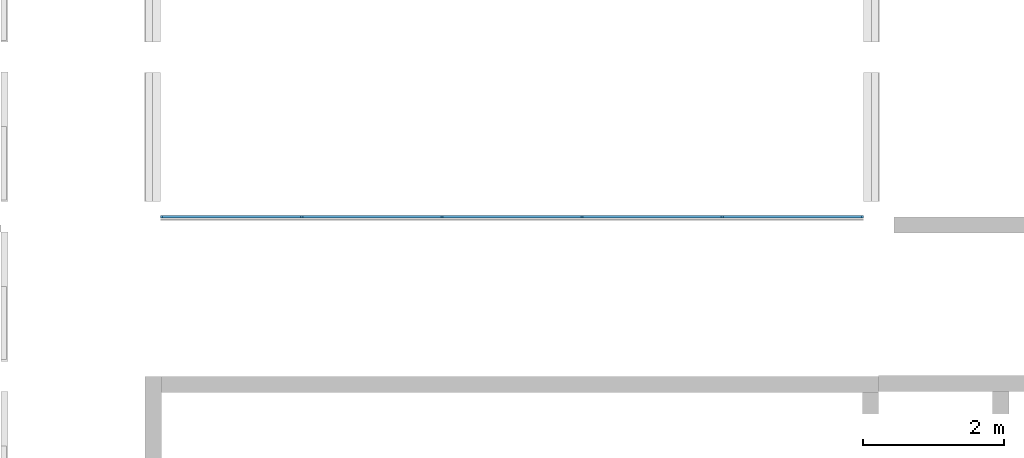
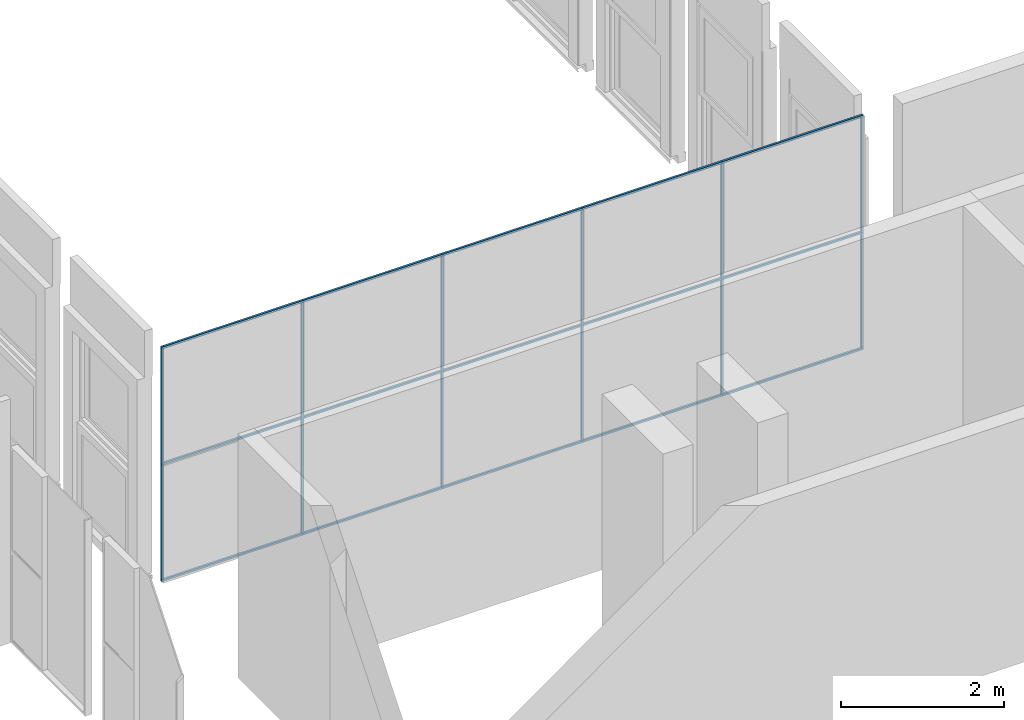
# One storey, part 1 of 16: 27 members, 1 element without a shape of its own.
"""IFC2X3 building model written with IfcOpenShell, lengths in millimetres."""

from ifc_helpers import new_model, entity, si_unit, converted_unit, derived_unit, direction, frame, origin, origin_2d_with_axis, place, context, subcontext, project, spatial, rectangle, extrude, source, transform, mapped, material, type_object, type_shapes, element, aggregate, save


model = new_model("IFC2X3")

# Units and contexts
model_context = context("Model", 3, precision=0.01, world=origin(), true_north=direction((6.12303176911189e-17, 1.0)))
body_context = subcontext(model_context, "Body", "Model", "MODEL_VIEW")
ifc_project = project(units=[si_unit("LENGTHUNIT", "METRE", prefix="MILLI"), si_unit("AREAUNIT", "SQUARE_METRE"), si_unit("VOLUMEUNIT", "CUBIC_METRE"), converted_unit("PLANEANGLEUNIT", "DEGREE", entity("IfcRatioMeasure", 0.0174532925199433), si_unit("PLANEANGLEUNIT", "RADIAN"), dimensions=[0, 0, 0, 0, 0, 0, 0]), si_unit("MASSUNIT", "GRAM", prefix="KILO"), derived_unit("MASSDENSITYUNIT", [(si_unit("MASSUNIT", "GRAM", prefix="KILO"), 1), (si_unit("LENGTHUNIT", "METRE"), -3)]), derived_unit("MOMENTOFINERTIAUNIT", [(si_unit("LENGTHUNIT", "METRE"), 4)]), si_unit("TIMEUNIT", "SECOND"), si_unit("FREQUENCYUNIT", "HERTZ"), si_unit("THERMODYNAMICTEMPERATUREUNIT", "DEGREE_CELSIUS"), derived_unit("THERMALTRANSMITTANCEUNIT", [(si_unit("MASSUNIT", "GRAM", prefix="KILO"), 1), (si_unit("THERMODYNAMICTEMPERATUREUNIT", "KELVIN"), -1), (si_unit("TIMEUNIT", "SECOND"), -3)]), derived_unit("VOLUMETRICFLOWRATEUNIT", [(si_unit("LENGTHUNIT", "METRE"), 3), (si_unit("TIMEUNIT", "SECOND"), -1)]), si_unit("ELECTRICCURRENTUNIT", "AMPERE"), si_unit("ELECTRICVOLTAGEUNIT", "VOLT"), si_unit("POWERUNIT", "WATT"), si_unit("FORCEUNIT", "NEWTON", prefix="KILO"), si_unit("ILLUMINANCEUNIT", "LUX"), si_unit("LUMINOUSFLUXUNIT", "LUMEN"), si_unit("LUMINOUSINTENSITYUNIT", "CANDELA"), derived_unit("USERDEFINED", [(si_unit("MASSUNIT", "GRAM", prefix="KILO"), -1), (si_unit("LENGTHUNIT", "METRE"), -2), (si_unit("TIMEUNIT", "SECOND"), 3), (si_unit("LUMINOUSFLUXUNIT", "LUMEN"), 1)]), derived_unit("LINEARVELOCITYUNIT", [(si_unit("LENGTHUNIT", "METRE"), 1), (si_unit("TIMEUNIT", "SECOND"), -1)]), si_unit("PRESSUREUNIT", "PASCAL"), derived_unit("USERDEFINED", [(si_unit("LENGTHUNIT", "METRE"), -2), (si_unit("MASSUNIT", "GRAM", prefix="KILO"), 1), (si_unit("TIMEUNIT", "SECOND"), -2)]), derived_unit("LINEARFORCEUNIT", [(si_unit("MASSUNIT", "GRAM", prefix="KILO"), 1), (si_unit("LENGTHUNIT", "METRE"), 1), (si_unit("TIMEUNIT", "SECOND"), -2), (si_unit("LENGTHUNIT", "METRE"), -1)]), derived_unit("PLANARFORCEUNIT", [(si_unit("MASSUNIT", "GRAM", prefix="KILO"), 1), (si_unit("LENGTHUNIT", "METRE"), 1), (si_unit("TIMEUNIT", "SECOND"), -2), (si_unit("LENGTHUNIT", "METRE"), -2)])], contexts=[model_context])

# Site, building, storey
site_placement = place(None, frame((10627.5135316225, 21939.0796949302, 0.0)))
site = spatial("IfcSite", under=ifc_project, at=site_placement, Name="Default", CompositionType="ELEMENT")
building_placement = place(site_placement, origin())
building = spatial("IfcBuilding", under=site, at=building_placement, CompositionType="ELEMENT")
storey_placement = place(building_placement, frame((0.0, 0.0, 3660.0)))
storey = spatial("IfcBuildingStorey", under=building, at=storey_placement, Name="R+1", CompositionType="ELEMENT", Elevation=3660.0)

# Curtain wall, members
curtain_wall_type = type_object("IfcCurtainWallType", Name="Curtain Wall:Curtain_Wall-Exterior_Glazing", PredefinedType="NOTDEFINED")
curtain_wall_placement = place(storey_placement, frame((0.0, 0.0, -3660.0)))
curtain_wall = element("IfcCurtainWall", 1, at=curtain_wall_placement, inside=storey, type_object=curtain_wall_type, Name="Curtain Wall:Curtain_Wall-Exterior_Glazing", ObjectType="Curtain Wall:Curtain_Wall-Exterior_Glazing")
ifc_material = material(Name="Aluminium")
member_type_1 = type_object("IfcMemberType", Name="Rectangular Mullion:30mm_Square", PredefinedType="MULLION", material=ifc_material)
shared_shape_1 = source(origin(), body_context, "Body", "SweptSolid", [
    extrude(rectangle(XDim=30.0, YDim=30.0, at=origin_2d_with_axis()), frame((-15.0, 0.0, -1999.0), z_axis=(0.0, 0.0, 1.0), x_axis=(0.0, -1.0, 0.0)), (0.0, 0.0, 1.0), 1999.00000018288),
])
type_shapes(member_type_1, [shared_shape_1])
member_1_placement = place(storey_placement, frame((1797.4864683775, -15159.0796949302, 3520.0), z_axis=(-1.0, 0.0, 0.0), x_axis=(0.0, 0.0, 1.0)))
member_1 = element("IfcMember", 2, at=member_1_placement, type_object=member_type_1, material=ifc_material, Name="Rectangular Mullion:30mm_Square", ObjectType="Rectangular Mullion:30mm_Square", context=body_context, shape_type="MappedRepresentation", body=[
    mapped(shared_shape_1, transform((0.0, 0.0, 0.0), scale=1.0)),
])
member_type_2 = type_object("IfcMemberType", Name="Rectangular Mullion:30mm_Square", PredefinedType="MULLION", material=ifc_material)
shared_shape_2 = source(origin(), body_context, "Body", "SweptSolid", [
    extrude(rectangle(XDim=30.0, YDim=30.0, at=origin_2d_with_axis()), frame((-15.0, 0.0, -1999.0), z_axis=(0.0, 0.0, 1.0), x_axis=(0.0, -1.0, 0.0)), (0.0, 0.0, 1.0), 1999.00000018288),
])
type_shapes(member_type_2, [shared_shape_2])
member_2_placement = place(storey_placement, frame((9748.48646819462, -15159.0796949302, 3520.0), z_axis=(-1.0, 0.0, 0.0), x_axis=(0.0, 0.0, 1.0)))
member_2 = element("IfcMember", 3, at=member_2_placement, type_object=member_type_2, material=ifc_material, Name="Rectangular Mullion:30mm_Square", ObjectType="Rectangular Mullion:30mm_Square", context=body_context, shape_type="MappedRepresentation", body=[
    mapped(shared_shape_2, transform((0.0, 0.0, 0.0), scale=1.0)),
])
member_type_3 = type_object("IfcMemberType", Name="Rectangular Mullion:30mm_Square", PredefinedType="MULLION", material=ifc_material)
shared_shape_3 = source(origin(), body_context, "Body", "SweptSolid", [
    extrude(rectangle(XDim=30.0, YDim=30.0, at=origin_2d_with_axis()), frame((-15.0, 0.0, -1984.0), z_axis=(0.0, 0.0, 1.0), x_axis=(0.0, -1.0, 0.0)), (0.0, 0.0, 1.0), 1983.99999987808),
])
type_shapes(member_type_3, [shared_shape_3])
member_3_placement = place(storey_placement, frame((7764.48646831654, -15159.0796949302, 3520.0), z_axis=(-1.0, 0.0, 0.0), x_axis=(0.0, 0.0, 1.0)))
member_3 = element("IfcMember", 4, at=member_3_placement, type_object=member_type_3, material=ifc_material, Name="Rectangular Mullion:30mm_Square", ObjectType="Rectangular Mullion:30mm_Square", context=body_context, shape_type="MappedRepresentation", body=[
    mapped(shared_shape_3, transform((0.0, 0.0, 0.0), scale=1.0)),
])
member_4_placement = place(storey_placement, frame((5780.48646843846, -15159.0796949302, 3520.0), z_axis=(-1.0, 0.0, 0.0), x_axis=(0.0, 0.0, 1.0)))
member_4 = element("IfcMember", 5, at=member_4_placement, type_object=member_type_3, material=ifc_material, Name="Rectangular Mullion:30mm_Square", ObjectType="Rectangular Mullion:30mm_Square", context=body_context, shape_type="MappedRepresentation", body=[
    mapped(shared_shape_3, transform((0.0, 0.0, 0.0), scale=1.0)),
])
member_5_placement = place(storey_placement, frame((3796.48646856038, -15159.0796949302, 3520.0), z_axis=(-1.0, 0.0, 0.0), x_axis=(0.0, 0.0, 1.0)))
member_5 = element("IfcMember", 6, at=member_5_placement, type_object=member_type_3, material=ifc_material, Name="Rectangular Mullion:30mm_Square", ObjectType="Rectangular Mullion:30mm_Square", context=body_context, shape_type="MappedRepresentation", body=[
    mapped(shared_shape_3, transform((0.0, 0.0, 0.0), scale=1.0)),
])
member_type_4 = type_object("IfcMemberType", Name="Rectangular Mullion:30mm_Square", PredefinedType="MULLION", material=ifc_material)
shared_shape_4 = source(origin(), body_context, "Body", "SweptSolid", [
    extrude(rectangle(XDim=30.0, YDim=30.0, at=origin_2d_with_axis()), frame((-15.0, 0.0, -1999.0), z_axis=(0.0, 0.0, 1.0), x_axis=(0.0, -1.0, 0.0)), (0.0, 0.0, 1.0), 1999.00000018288),
])
type_shapes(member_type_4, [shared_shape_4])
member_6_placement = place(storey_placement, frame((11747.4864683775, -15159.0796949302, 0.0), z_axis=(1.0, 0.0, 0.0), x_axis=(0.0, 0.0, -1.0)))
member_6 = element("IfcMember", 7, at=member_6_placement, type_object=member_type_4, material=ifc_material, Name="Rectangular Mullion:30mm_Square", ObjectType="Rectangular Mullion:30mm_Square", context=body_context, shape_type="MappedRepresentation", body=[
    mapped(shared_shape_4, transform((0.0, 0.0, 0.0), scale=1.0)),
])
member_type_5 = type_object("IfcMemberType", Name="Rectangular Mullion:30mm_Square", PredefinedType="MULLION", material=ifc_material)
shared_shape_5 = source(origin(), body_context, "Body", "SweptSolid", [
    extrude(rectangle(XDim=30.0, YDim=30.0, at=origin_2d_with_axis()), frame((-15.0, 0.0, -1984.0), z_axis=(0.0, 0.0, 1.0), x_axis=(0.0, -1.0, 0.0)), (0.0, 0.0, 1.0), 1983.99999987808),
])
type_shapes(member_type_5, [shared_shape_5])
member_7_placement = place(storey_placement, frame((9748.48646819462, -15159.0796949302, 0.0), z_axis=(1.0, 0.0, 0.0), x_axis=(0.0, 0.0, -1.0)))
member_7 = element("IfcMember", 8, at=member_7_placement, type_object=member_type_5, material=ifc_material, Name="Rectangular Mullion:30mm_Square", ObjectType="Rectangular Mullion:30mm_Square", context=body_context, shape_type="MappedRepresentation", body=[
    mapped(shared_shape_5, transform((0.0, 0.0, 0.0), scale=1.0)),
])
member_8_placement = place(storey_placement, frame((7764.48646831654, -15159.0796949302, 0.0), z_axis=(1.0, 0.0, 0.0), x_axis=(0.0, 0.0, -1.0)))
member_8 = element("IfcMember", 9, at=member_8_placement, type_object=member_type_5, material=ifc_material, Name="Rectangular Mullion:30mm_Square", ObjectType="Rectangular Mullion:30mm_Square", context=body_context, shape_type="MappedRepresentation", body=[
    mapped(shared_shape_5, transform((0.0, 0.0, 0.0), scale=1.0)),
])
member_9_placement = place(storey_placement, frame((5780.48646843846, -15159.0796949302, 0.0), z_axis=(1.0, 0.0, 0.0), x_axis=(0.0, 0.0, -1.0)))
member_9 = element("IfcMember", 10, at=member_9_placement, type_object=member_type_5, material=ifc_material, Name="Rectangular Mullion:30mm_Square", ObjectType="Rectangular Mullion:30mm_Square", context=body_context, shape_type="MappedRepresentation", body=[
    mapped(shared_shape_5, transform((0.0, 0.0, 0.0), scale=1.0)),
])
member_type_6 = type_object("IfcMemberType", Name="Rectangular Mullion:30mm_Square", PredefinedType="MULLION", material=ifc_material)
shared_shape_6 = source(origin(), body_context, "Body", "SweptSolid", [
    extrude(rectangle(XDim=30.0, YDim=30.0, at=origin_2d_with_axis()), frame((-15.0, 0.0, -1999.0), z_axis=(0.0, 0.0, 1.0), x_axis=(0.0, -1.0, 0.0)), (0.0, 0.0, 1.0), 1999.00000018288),
])
type_shapes(member_type_6, [shared_shape_6])
member_10_placement = place(storey_placement, frame((3796.48646856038, -15159.0796949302, 0.0), z_axis=(1.0, 0.0, 0.0), x_axis=(0.0, 0.0, -1.0)))
member_10 = element("IfcMember", 11, at=member_10_placement, type_object=member_type_6, material=ifc_material, Name="Rectangular Mullion:30mm_Square", ObjectType="Rectangular Mullion:30mm_Square", context=body_context, shape_type="MappedRepresentation", body=[
    mapped(shared_shape_6, transform((0.0, 0.0, 0.0), scale=1.0)),
])
member_type_7 = type_object("IfcMemberType", Name="Rectangular Mullion:30mm_Square", PredefinedType="MULLION", material=ifc_material)
shared_shape_7 = source(origin(), body_context, "Body", "SweptSolid", [
    extrude(rectangle(XDim=30.0, YDim=30.0, at=origin_2d_with_axis()), frame((0.0, 0.0, -1954.0), z_axis=(0.0, 0.0, 1.0), x_axis=(0.0, -1.0, 0.0)), (0.0, 0.0, 1.0), 1954.00000018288),
])
type_shapes(member_type_7, [shared_shape_7])
member_11_placement = place(storey_placement, frame((9763.48646819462, -15159.0796949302, 1760.0), z_axis=(-1.0, 0.0, 0.0), x_axis=(0.0, 0.0, 1.0)))
member_11 = element("IfcMember", 12, at=member_11_placement, type_object=member_type_7, material=ifc_material, Name="Rectangular Mullion:30mm_Square", ObjectType="Rectangular Mullion:30mm_Square", context=body_context, shape_type="MappedRepresentation", body=[
    mapped(shared_shape_7, transform((0.0, 0.0, 0.0), scale=1.0)),
])
member_12_placement = place(storey_placement, frame((7779.48646831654, -15159.0796949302, 1760.0), z_axis=(-1.0, 0.0, 0.0), x_axis=(0.0, 0.0, 1.0)))
member_12 = element("IfcMember", 13, at=member_12_placement, type_object=member_type_7, material=ifc_material, Name="Rectangular Mullion:30mm_Square", ObjectType="Rectangular Mullion:30mm_Square", context=body_context, shape_type="MappedRepresentation", body=[
    mapped(shared_shape_7, transform((0.0, 0.0, 0.0), scale=1.0)),
])
member_13_placement = place(storey_placement, frame((5795.48646843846, -15159.0796949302, 1760.0), z_axis=(-1.0, 0.0, 0.0), x_axis=(0.0, 0.0, 1.0)))
member_13 = element("IfcMember", 14, at=member_13_placement, type_object=member_type_7, material=ifc_material, Name="Rectangular Mullion:30mm_Square", ObjectType="Rectangular Mullion:30mm_Square", context=body_context, shape_type="MappedRepresentation", body=[
    mapped(shared_shape_7, transform((0.0, 0.0, 0.0), scale=1.0)),
])
member_14_placement = place(storey_placement, frame((3811.48646856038, -15159.0796949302, 1760.0), z_axis=(-1.0, 0.0, 0.0), x_axis=(0.0, 0.0, 1.0)))
member_14 = element("IfcMember", 15, at=member_14_placement, type_object=member_type_7, material=ifc_material, Name="Rectangular Mullion:30mm_Square", ObjectType="Rectangular Mullion:30mm_Square", context=body_context, shape_type="MappedRepresentation", body=[
    mapped(shared_shape_7, transform((0.0, 0.0, 0.0), scale=1.0)),
])
member_15_placement = place(storey_placement, frame((1827.4864683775, -15159.0796949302, 1760.0), z_axis=(-1.0, 0.0, 0.0), x_axis=(0.0, 0.0, 1.0)))
member_15 = element("IfcMember", 16, at=member_15_placement, type_object=member_type_7, material=ifc_material, Name="Rectangular Mullion:30mm_Square", ObjectType="Rectangular Mullion:30mm_Square", context=body_context, shape_type="MappedRepresentation", body=[
    mapped(shared_shape_7, transform((0.0, 0.0, 0.0), scale=1.0)),
])
member_type_8 = type_object("IfcMemberType", Name="Rectangular Mullion:30mm_Square", PredefinedType="MULLION", material=ifc_material)
shared_shape_8 = source(origin(), body_context, "Body", "SweptSolid", [
    extrude(rectangle(XDim=30.0, YDim=30.0, at=origin_2d_with_axis()), frame((-15.0, 0.0, -1730.0), z_axis=(0.0, 0.0, 1.0), x_axis=(0.0, -1.0, 0.0)), (0.0, 0.0, 1.0), 1730.0),
])
type_shapes(member_type_8, [shared_shape_8])
member_16_placement = place(storey_placement, frame((1797.4864683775, -15159.0796949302, 30.0), z_axis=(0.0, 0.0, -1.0), x_axis=(-1.0, 0.0, 0.0)))
member_16 = element("IfcMember", 17, at=member_16_placement, type_object=member_type_8, material=ifc_material, Name="Rectangular Mullion:30mm_Square", ObjectType="Rectangular Mullion:30mm_Square", context=body_context, shape_type="MappedRepresentation", body=[
    mapped(shared_shape_8, transform((0.0, 0.0, 0.0), scale=1.0)),
])
member_type_9 = type_object("IfcMemberType", Name="Rectangular Mullion:30mm_Square", PredefinedType="MULLION", material=ifc_material)
shared_shape_9 = source(origin(), body_context, "Body", "SweptSolid", [
    extrude(rectangle(XDim=30.0, YDim=30.0, at=origin_2d_with_axis()), frame((-15.0, 0.0, -1730.0), z_axis=(0.0, 0.0, 1.0), x_axis=(0.0, -1.0, 0.0)), (0.0, 0.0, 1.0), 1730.0),
])
type_shapes(member_type_9, [shared_shape_9])
member_17_placement = place(storey_placement, frame((1797.4864683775, -15159.0796949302, 1760.0), z_axis=(0.0, 0.0, -1.0), x_axis=(-1.0, 0.0, 0.0)))
member_17 = element("IfcMember", 18, at=member_17_placement, type_object=member_type_9, material=ifc_material, Name="Rectangular Mullion:30mm_Square", ObjectType="Rectangular Mullion:30mm_Square", context=body_context, shape_type="MappedRepresentation", body=[
    mapped(shared_shape_9, transform((0.0, 0.0, 0.0), scale=1.0)),
])
member_type_10 = type_object("IfcMemberType", Name="Rectangular Mullion:30mm_Square", PredefinedType="MULLION", material=ifc_material)
shared_shape_10 = source(origin(), body_context, "Body", "SweptSolid", [
    extrude(rectangle(XDim=30.0, YDim=30.0, at=origin_2d_with_axis()), frame((-15.0, 0.0, -1730.0), z_axis=(0.0, 0.0, 1.0), x_axis=(0.0, -1.0, 0.0)), (0.0, 0.0, 1.0), 1730.0),
])
type_shapes(member_type_10, [shared_shape_10])
member_18_placement = place(storey_placement, frame((11747.4864683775, -15159.0796949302, 3490.0)))
member_18 = element("IfcMember", 19, at=member_18_placement, type_object=member_type_10, material=ifc_material, Name="Rectangular Mullion:30mm_Square", ObjectType="Rectangular Mullion:30mm_Square", context=body_context, shape_type="MappedRepresentation", body=[
    mapped(shared_shape_10, transform((0.0, 0.0, 0.0), scale=1.0)),
])
member_type_11 = type_object("IfcMemberType", Name="Rectangular Mullion:30mm_Square", PredefinedType="MULLION", material=ifc_material)
shared_shape_11 = source(origin(), body_context, "Body", "SweptSolid", [
    extrude(rectangle(XDim=30.0, YDim=30.0, at=origin_2d_with_axis()), frame((-15.0, 0.0, -1730.0), z_axis=(0.0, 0.0, 1.0), x_axis=(0.0, -1.0, 0.0)), (0.0, 0.0, 1.0), 1730.0),
])
type_shapes(member_type_11, [shared_shape_11])
member_19_placement = place(storey_placement, frame((11747.4864683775, -15159.0796949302, 1760.0)))
member_19 = element("IfcMember", 20, at=member_19_placement, type_object=member_type_11, material=ifc_material, Name="Rectangular Mullion:30mm_Square", ObjectType="Rectangular Mullion:30mm_Square", context=body_context, shape_type="MappedRepresentation", body=[
    mapped(shared_shape_11, transform((0.0, 0.0, 0.0), scale=1.0)),
])
member_type_12 = type_object("IfcMemberType", Name="Rectangular Mullion:30mm_Square", PredefinedType="MULLION", material=ifc_material)
shared_shape_12 = source(origin(), body_context, "Body", "SweptSolid", [
    extrude(rectangle(XDim=30.0, YDim=30.0, at=origin_2d_with_axis()), frame((0.0, 0.0, -1730.0), z_axis=(0.0, 0.0, 1.0), x_axis=(0.0, -1.0, 0.0)), (0.0, 0.0, 1.0), 1730.0),
])
type_shapes(member_type_12, [shared_shape_12])
member_20_placement = place(storey_placement, frame((9748.48646819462, -15159.0796949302, 30.0), z_axis=(0.0, 0.0, -1.0), x_axis=(-1.0, 0.0, 0.0)))
member_20 = element("IfcMember", 21, at=member_20_placement, type_object=member_type_12, material=ifc_material, Name="Rectangular Mullion:30mm_Square", ObjectType="Rectangular Mullion:30mm_Square", context=body_context, shape_type="MappedRepresentation", body=[
    mapped(shared_shape_12, transform((0.0, 0.0, 0.0), scale=1.0)),
])
member_21_placement = place(storey_placement, frame((7764.48646831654, -15159.0796949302, 30.0), z_axis=(0.0, 0.0, -1.0), x_axis=(-1.0, 0.0, 0.0)))
member_21 = element("IfcMember", 22, at=member_21_placement, type_object=member_type_12, material=ifc_material, Name="Rectangular Mullion:30mm_Square", ObjectType="Rectangular Mullion:30mm_Square", context=body_context, shape_type="MappedRepresentation", body=[
    mapped(shared_shape_12, transform((0.0, 0.0, 0.0), scale=1.0)),
])
member_22_placement = place(storey_placement, frame((5780.48646843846, -15159.0796949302, 30.0), z_axis=(0.0, 0.0, -1.0), x_axis=(-1.0, 0.0, 0.0)))
member_22 = element("IfcMember", 23, at=member_22_placement, type_object=member_type_12, material=ifc_material, Name="Rectangular Mullion:30mm_Square", ObjectType="Rectangular Mullion:30mm_Square", context=body_context, shape_type="MappedRepresentation", body=[
    mapped(shared_shape_12, transform((0.0, 0.0, 0.0), scale=1.0)),
])
member_23_placement = place(storey_placement, frame((3796.48646856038, -15159.0796949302, 30.0), z_axis=(0.0, 0.0, -1.0), x_axis=(-1.0, 0.0, 0.0)))
member_23 = element("IfcMember", 24, at=member_23_placement, type_object=member_type_12, material=ifc_material, Name="Rectangular Mullion:30mm_Square", ObjectType="Rectangular Mullion:30mm_Square", context=body_context, shape_type="MappedRepresentation", body=[
    mapped(shared_shape_12, transform((0.0, 0.0, 0.0), scale=1.0)),
])
member_type_13 = type_object("IfcMemberType", Name="Rectangular Mullion:30mm_Square", PredefinedType="MULLION", material=ifc_material)
shared_shape_13 = source(origin(), body_context, "Body", "SweptSolid", [
    extrude(rectangle(XDim=30.0, YDim=30.0, at=origin_2d_with_axis()), frame((0.0, 0.0, -1730.0), z_axis=(0.0, 0.0, 1.0), x_axis=(0.0, -1.0, 0.0)), (0.0, 0.0, 1.0), 1730.0),
])
type_shapes(member_type_13, [shared_shape_13])
member_24_placement = place(storey_placement, frame((9748.48646819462, -15159.0796949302, 1760.0), z_axis=(0.0, 0.0, -1.0), x_axis=(-1.0, 0.0, 0.0)))
member_24 = element("IfcMember", 25, at=member_24_placement, type_object=member_type_13, material=ifc_material, Name="Rectangular Mullion:30mm_Square", ObjectType="Rectangular Mullion:30mm_Square", context=body_context, shape_type="MappedRepresentation", body=[
    mapped(shared_shape_13, transform((0.0, 0.0, 0.0), scale=1.0)),
])
member_25_placement = place(storey_placement, frame((7764.48646831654, -15159.0796949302, 1760.0), z_axis=(0.0, 0.0, -1.0), x_axis=(-1.0, 0.0, 0.0)))
member_25 = element("IfcMember", 26, at=member_25_placement, type_object=member_type_13, material=ifc_material, Name="Rectangular Mullion:30mm_Square", ObjectType="Rectangular Mullion:30mm_Square", context=body_context, shape_type="MappedRepresentation", body=[
    mapped(shared_shape_13, transform((0.0, 0.0, 0.0), scale=1.0)),
])
member_26_placement = place(storey_placement, frame((5780.48646843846, -15159.0796949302, 1760.0), z_axis=(0.0, 0.0, -1.0), x_axis=(-1.0, 0.0, 0.0)))
member_26 = element("IfcMember", 27, at=member_26_placement, type_object=member_type_13, material=ifc_material, Name="Rectangular Mullion:30mm_Square", ObjectType="Rectangular Mullion:30mm_Square", context=body_context, shape_type="MappedRepresentation", body=[
    mapped(shared_shape_13, transform((0.0, 0.0, 0.0), scale=1.0)),
])
member_27_placement = place(storey_placement, frame((3796.48646856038, -15159.0796949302, 1760.0), z_axis=(0.0, 0.0, -1.0), x_axis=(-1.0, 0.0, 0.0)))
member_27 = element("IfcMember", 28, at=member_27_placement, type_object=member_type_13, material=ifc_material, Name="Rectangular Mullion:30mm_Square", ObjectType="Rectangular Mullion:30mm_Square", context=body_context, shape_type="MappedRepresentation", body=[
    mapped(shared_shape_13, transform((0.0, 0.0, 0.0), scale=1.0)),
])
aggregate(curtain_wall, [member_1, member_2, member_3, member_4, member_5, member_6, member_7, member_8, member_9, member_10, member_11, member_12, member_13, member_14, member_15, member_16, member_17, member_18, member_19, member_20, member_24, member_21, member_22, member_23, member_25, member_26, member_27])

save(model, "model.ifc")
